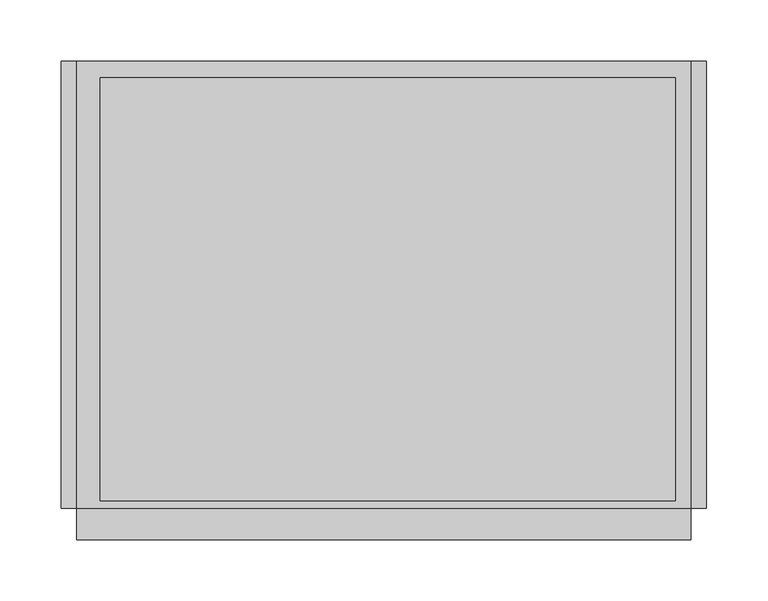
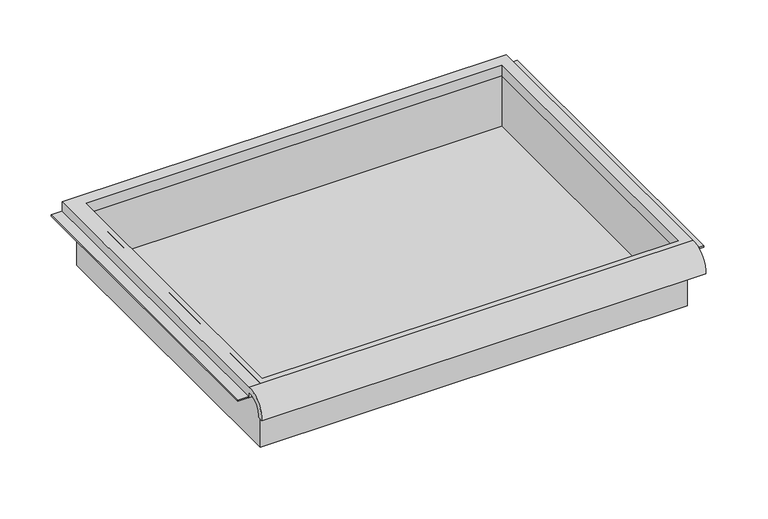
"""IFC4 building model written with IfcOpenShell, lengths in millimetres: furniture geometry."""

from ifc_helpers import new_model, si_unit, frame, origin, place, context, project, spatial, polyline, circle_curve, faceted_brep, source, transform, mapped, element, save
from ifc_brep_helpers import plane_surface, cylinder_surface, revolved_surface, advanced_brep


def furniture_5fc54427(model_context):
    return source(origin(), model_context, "Body", "SolidModel", [
        advanced_brep(
        [(263.7474999, -195.297482, 815.1849518), (263.7474999, -188.9125, 815.1849518), (263.7474999, -169.8625, 833.446425), (263.7474999, -169.8625, 827.0964246), (263.7474999, 195.2625, 827.0964246), (263.7474999, 195.2625, 839.796425), (263.7474999, -169.8625, 839.796425), (-237.9025001, -195.297482, 815.1849518), (-237.9025001, -169.8625, 839.796425), (-237.9025001, 195.2625, 839.796425), (-237.9025001, 195.2625, 827.0964246), (-237.9025001, -169.8625, 827.0964246), (-237.9025001, -169.8625, 833.446425), (-237.9025001, -188.9125, 815.1849518), (251.0474878, 181.9275, 827.0964246), (-218.8095642, 181.9275, 827.0964246), (-218.8095642, -163.5125, 827.0964246), (251.0474878, -163.5125, 827.0964246), (-218.8095642, 181.9275, 839.796425), (251.0474878, 181.9275, 839.796425), (251.0474878, -163.5125, 839.796425), (-218.8095642, -163.5125, 839.796425)],
        [
            (0, 1),
            (1, 2, circle_curve(frame((263.7474999, -172.3404634, 816.9643622), z_axis=(-1.0, 0.0, 0.0), x_axis=(0.0, 1.0, 0.0)), 16.6672942)),
            (2, 3),
            (3, 4),
            (4, 5),
            (5, 6),
            (6, 0, circle_curve(frame((263.7474999, -172.4601678, 817.0322522), z_axis=(1.0, 0.0, 0.0), x_axis=(0.0, 1.0, 0.0)), 22.9119061)),
            (7, 8, circle_curve(frame((-237.9025001, -172.4601678, 817.0322522), z_axis=(-1.0, 0.0, 0.0), x_axis=(0.0, 1.0, 0.0)), 22.9119061)),
            (8, 9),
            (9, 10),
            (10, 11),
            (11, 12),
            (12, 13, circle_curve(frame((-237.9025001, -172.3404634, 816.9643622), z_axis=(1.0, 0.0, 0.0), x_axis=(0.0, 1.0, 0.0)), 16.6672942)),
            (13, 7),
            (0, 7),
            (13, 1),
            (12, 2),
            (11, 3),
            (10, 4),
            (14, 15),
            (15, 16),
            (16, 17),
            (17, 14),
            (9, 5),
            (8, 6),
            (18, 19),
            (19, 20),
            (20, 21),
            (21, 18),
            (14, 19),
            (18, 15),
            (21, 16),
            (20, 17),
        ],
        [
            plane_surface(frame((263.7474999, -195.297482, 815.1849518), z_axis=(1.0, 0.0, 0.0), x_axis=(0.0, 1.0, 0.0))),
            plane_surface(frame((-237.9025001, -195.297482, 815.1849518), z_axis=(-1.0, 0.0, 0.0), x_axis=(0.0, -1.0, 0.0))),
            plane_surface(frame((263.7474999, -195.297482, 815.1849518), z_axis=(0.0, 0.0, -1.0), x_axis=(-1.0, 0.0, 0.0))),
            revolved_surface(polyline([(-237.9025001, -155.67316920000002, 816.9643622), (263.7474999, -155.67316920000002, 816.9643622)]), (-237.9025001, -172.3404634, 816.9643622), (-1.0, 0.0, 0.0)),
            plane_surface(frame((263.7474999, -169.8625, 833.446425), z_axis=(0.0, -1.0, 0.0), x_axis=(-1.0, 0.0, 0.0))),
            plane_surface(frame((263.7474999, -169.8625, 827.0964246), z_axis=(0.0, 0.0, -1.0), x_axis=(-1.0, 0.0, 0.0))),
            plane_surface(frame((263.7474999, 195.2625, 827.0964246), z_axis=(0.0, 1.0, 0.0), x_axis=(-1.0, 0.0, 0.0))),
            plane_surface(frame((263.7474999, 195.2625, 839.796425), z_axis=(0.0, 0.0, 1.0), x_axis=(-1.0, 0.0, 0.0))),
            cylinder_surface(frame((-237.9025001, -172.4601678, 817.0322522), z_axis=(1.0, 0.0, 0.0), x_axis=(0.0, 1.0, 0.0)), 22.9119061),
            plane_surface(frame((251.0474878, 181.9275, 839.796425), z_axis=(0.0, -1.0, 0.0), x_axis=(0.0, 0.0, -1.0))),
            plane_surface(frame((-218.8095642, 181.9275, 839.796425), z_axis=(1.0, 0.0, 0.0), x_axis=(0.0, 0.0, -1.0))),
            plane_surface(frame((-218.8095642, -163.5125, 839.796425), z_axis=(0.0, 1.0, 0.0), x_axis=(0.0, 0.0, -1.0))),
            plane_surface(frame((251.0474878, -163.5125, 839.796425), z_axis=(-1.0, 0.0, 0.0), x_axis=(0.0, 0.0, -1.0))),
        ],
        [
            (0, [[1, 2, 3, 4, 5, 6, 7]]),
            (1, [[8, 9, 10, 11, 12, 13, 14]]),
            (2, [[-1, 15, -14, 16]]),
            (3, [[-2, -16, -13, 17]]),
            (4, [[-3, -17, -12, 18]]),
            (5, [[-4, -18, -11, 19], [20, 21, 22, 23]]),
            (6, [[-5, -19, -10, 24]]),
            (7, [[-6, -24, -9, 25], [26, 27, 28, 29]]),
            (8, [[-7, -25, -8, -15]]),
            (9, [[30, -26, 31, -20]]),
            (10, [[-31, -29, 32, -21]]),
            (11, [[-32, -28, 33, -22]]),
            (12, [[-30, -23, -33, -27]]),
        ],
    ),
        faceted_brep([(-225.2025001, -169.8625, 763.596425), (257.3974878, -169.8625, 763.596425), (257.3974878, -169.8625, 839.796425), (-225.2025001, -169.8625, 839.796425), (-225.2025001, 188.9125, 763.596425), (-225.2025001, 188.9125, 839.796425), (257.3974878, 188.9125, 839.796425), (257.3974878, 188.9125, 763.596425), (-218.8095642, 181.9275, 839.796425), (251.0474878, 181.9275, 839.796425), (251.0474878, -163.5125, 839.796425), (-218.8095642, -163.5125, 839.796425), (251.0474878, 181.9275, 766.771425), (-218.8095642, 181.9275, 766.771425), (-218.8095642, -163.5125, 766.771425), (251.0474878, -163.5125, 766.771425)], [[[0, 1, 2, 3]], [[4, 5, 6, 7]], [[1, 0, 4, 7]], [[2, 1, 7, 6]], [[3, 2, 6, 5], [8, 9, 10, 11]], [[0, 3, 5, 4]], [[12, 13, 14, 15]], [[13, 12, 9, 8]], [[14, 13, 8, 11]], [[15, 14, 11, 10]], [[12, 15, 10, 9]]]),
        faceted_brep([(-250.6025001, 195.2625, 827.0964246), (-250.6025001, 195.2625, 828.6839246), (-231.5525001, 195.2625, 828.6839246), (-231.5525001, 195.2625, 827.0964246), (-250.6025001, -169.8625, 827.0964246), (-231.5525001, -169.8625, 827.0964246), (-231.5525001, -169.8625, 828.6839246), (-250.6025001, -169.8625, 828.6839246)], [[[0, 1, 2, 3]], [[4, 5, 6, 7]], [[1, 0, 4, 7]], [[2, 1, 7, 6]], [[3, 2, 6, 5]], [[0, 3, 5, 4]]]),
        faceted_brep([(276.4474999, 195.2625, 827.0964246), (263.7474999, 195.2625, 827.0964246), (263.7474999, 195.2625, 828.6839246), (276.4474999, 195.2625, 828.6839246), (276.4474999, -169.8625, 827.0964246), (276.4474999, -169.8625, 828.6839246), (263.7474999, -169.8625, 828.6839246), (263.7474999, -169.8625, 827.0964246)], [[[0, 1, 2, 3]], [[4, 5, 6, 7]], [[1, 0, 4, 7]], [[2, 1, 7, 6]], [[3, 2, 6, 5]], [[0, 3, 5, 4]]]),
    ])


if __name__ == "__main__":
    model = new_model("IFC4")
    model_context = context("Model", 3, world=origin())
    ifc_project = project(units=[si_unit("LENGTHUNIT", "METRE", prefix="MILLI")], contexts=[model_context])
    site = spatial("IfcSite", under=ifc_project)
    building = spatial("IfcBuilding", under=site)
    placement = place(None, origin())
    furniture_shape = furniture_5fc54427(model_context)
    element("IfcFurniture", 1, ObjectType="HermanMiller_Carts_CT501_Drawer : 3\"H x 15\"D x 20\"W", at=placement, inside=building, context=model_context, shape_type="MappedRepresentation", body=[
        mapped(furniture_shape, transform((0.0, 0.0, 0.0), x_axis=(1.0, 0.0, 0.0), y_axis=(0.0, 1.0, 0.0), z_axis=(0.0, 0.0, 1.0))),
    ])
    save(model, "model.ifc")
